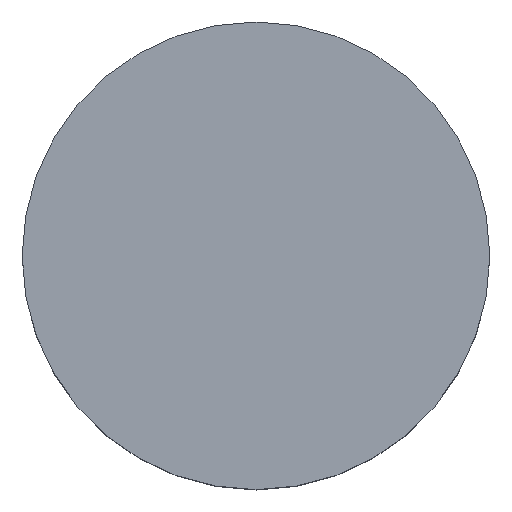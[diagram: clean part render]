
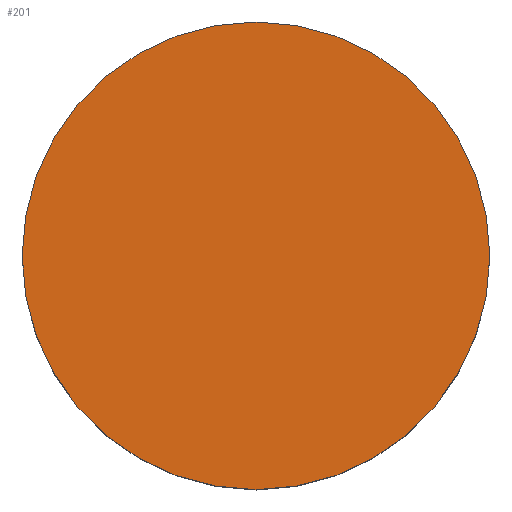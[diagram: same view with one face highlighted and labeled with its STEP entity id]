
A CAD part, top view. The second image highlights one B-rep face of the part: STEP entity #201.
In plain terms, the highlighted planar face has unit normal (0, 0, 1).
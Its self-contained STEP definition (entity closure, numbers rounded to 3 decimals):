
#201=ADVANCED_FACE('',(#257),#244,.T.);
#244=PLANE('',#710);
#257=FACE_OUTER_BOUND('',#289,.T.);
#289=EDGE_LOOP('',(#343,#344));
#343=ORIENTED_EDGE('',*,*,#565,.F.);
#344=ORIENTED_EDGE('',*,*,#566,.F.);
#511=VERTEX_POINT('',#1041);
#512=VERTEX_POINT('',#1042);
#565=EDGE_CURVE('',#511,#512,#649,.T.);
#566=EDGE_CURVE('',#512,#511,#650,.T.);
#649=CIRCLE('',#708,5.5);
#650=CIRCLE('',#709,5.5);
#708=AXIS2_PLACEMENT_3D('',#1040,#811,#812);
#709=AXIS2_PLACEMENT_3D('',#1043,#813,#814);
#710=AXIS2_PLACEMENT_3D('',#1044,#815,#816);
#811=DIRECTION('',(0.,0.,-1.));
#812=DIRECTION('',(0.,1.,0.));
#813=DIRECTION('',(0.,0.,-1.));
#814=DIRECTION('',(0.,-1.,0.));
#815=DIRECTION('',(0.,0.,1.));
#816=DIRECTION('',(0.,-1.,0.));
#1040=CARTESIAN_POINT('',(0.,0.,5.));
#1041=CARTESIAN_POINT('',(5.5,0.,5.));
#1042=CARTESIAN_POINT('',(-5.5,0.,5.));
#1043=CARTESIAN_POINT('',(0.,0.,5.));
#1044=CARTESIAN_POINT('',(0.,0.,5.));
